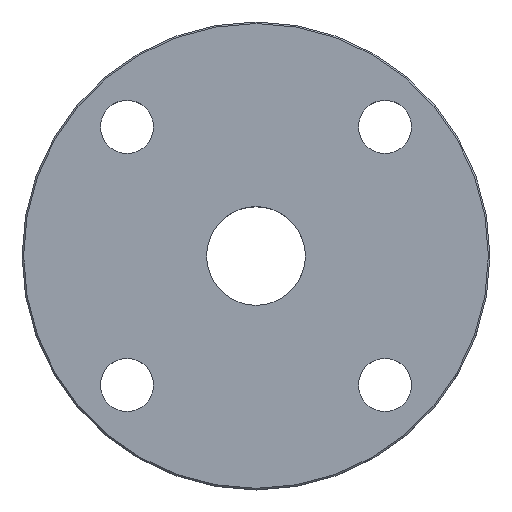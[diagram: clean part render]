
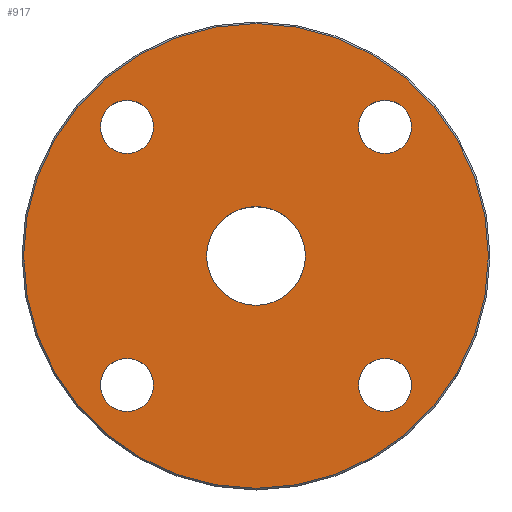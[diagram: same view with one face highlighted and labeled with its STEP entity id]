
A CAD part, top view. The second image highlights one B-rep face of the part: STEP entity #917.
In plain terms, the highlighted planar face has unit normal (0, 0, 1).
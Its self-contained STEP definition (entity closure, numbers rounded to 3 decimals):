
#25 = EDGE_LOOP ( 'NONE', ( #553, #399 ) ) ;
#35 = CARTESIAN_POINT ( 'NONE',  ( 41.366, -41.366, 306.5 ) ) ;
#45 = CARTESIAN_POINT ( 'NONE',  ( -41.366, -49.866, 306.5 ) ) ;
#66 = ORIENTED_EDGE ( 'NONE', *, *, #940, .T. ) ;
#81 = EDGE_LOOP ( 'NONE', ( #511, #686 ) ) ;
#90 = CARTESIAN_POINT ( 'NONE',  ( -41.366, -41.366, 306.5 ) ) ;
#95 = FACE_BOUND ( 'NONE', #147, .T. ) ;
#99 = DIRECTION ( 'NONE',  ( 0., -1., 0. ) ) ;
#103 = CARTESIAN_POINT ( 'NONE',  ( 32.866, -41.366, 306.5 ) ) ;
#110 = DIRECTION ( 'NONE',  ( 0., 0., -1. ) ) ;
#112 = EDGE_CURVE ( 'NONE', #243, #437, #558, .T. ) ;
#119 = DIRECTION ( 'NONE',  ( 0., 0., -1. ) ) ;
#121 = ORIENTED_EDGE ( 'NONE', *, *, #522, .F. ) ;
#125 = DIRECTION ( 'NONE',  ( -1., 0., 0. ) ) ;
#127 = VERTEX_POINT ( 'NONE', #573 ) ;
#130 = EDGE_CURVE ( 'NONE', #707, #442, #299, .T. ) ;
#131 = DIRECTION ( 'NONE',  ( 0., 0., -1. ) ) ;
#135 = AXIS2_PLACEMENT_3D ( 'NONE', #667, #291, #497 ) ;
#147 = EDGE_LOOP ( 'NONE', ( #914, #66 ) ) ;
#157 = DIRECTION ( 'NONE',  ( 0., 0., -1. ) ) ;
#171 = AXIS2_PLACEMENT_3D ( 'NONE', #330, #110, #933 ) ;
#173 = FACE_BOUND ( 'NONE', #25, .T. ) ;
#205 = AXIS2_PLACEMENT_3D ( 'NONE', #35, #131, #942 ) ;
#207 = EDGE_CURVE ( 'NONE', #820, #776, #866, .T. ) ;
#216 = DIRECTION ( 'NONE',  ( 0., 1., 0. ) ) ;
#232 = CIRCLE ( 'NONE', #975, 8.5 ) ;
#235 = CARTESIAN_POINT ( 'NONE',  ( -32.866, 41.366, 306.5 ) ) ;
#243 = VERTEX_POINT ( 'NONE', #364 ) ;
#247 = EDGE_CURVE ( 'NONE', #434, #127, #443, .T. ) ;
#259 = EDGE_LOOP ( 'NONE', ( #289, #923 ) ) ;
#271 = DIRECTION ( 'NONE',  ( 0., 0., -1. ) ) ;
#289 = ORIENTED_EDGE ( 'NONE', *, *, #455, .T. ) ;
#291 = DIRECTION ( 'NONE',  ( 0., 0., -1. ) ) ;
#295 = DIRECTION ( 'NONE',  ( 0., 1., 0. ) ) ;
#297 = CIRCLE ( 'NONE', #205, 8.5 ) ;
#299 = CIRCLE ( 'NONE', #412, 8.5 ) ;
#303 = EDGE_CURVE ( 'NONE', #127, #434, #572, .T. ) ;
#318 = DIRECTION ( 'NONE',  ( 0., 0., -1. ) ) ;
#319 = EDGE_LOOP ( 'NONE', ( #121, #369 ) ) ;
#321 = DIRECTION ( 'NONE',  ( 0., 0., -1. ) ) ;
#330 = CARTESIAN_POINT ( 'NONE',  ( -41.366, 41.366, 306.5 ) ) ;
#333 = PLANE ( 'NONE',  #675 ) ;
#334 = DIRECTION ( 'NONE',  ( 0., 0., -1. ) ) ;
#337 = CIRCLE ( 'NONE', #881, 8.5 ) ;
#350 = AXIS2_PLACEMENT_3D ( 'NONE', #90, #321, #400 ) ;
#363 = DIRECTION ( 'NONE',  ( 1., 0., 0. ) ) ;
#364 = CARTESIAN_POINT ( 'NONE',  ( -49.866, 41.366, 306.5 ) ) ;
#369 = ORIENTED_EDGE ( 'NONE', *, *, #207, .F. ) ;
#390 = CARTESIAN_POINT ( 'NONE',  ( 41.366, 41.366, 306.5 ) ) ;
#393 = AXIS2_PLACEMENT_3D ( 'NONE', #628, #334, #784 ) ;
#395 = DIRECTION ( 'NONE',  ( 0., 0., 1. ) ) ;
#399 = ORIENTED_EDGE ( 'NONE', *, *, #303, .T. ) ;
#400 = DIRECTION ( 'NONE',  ( 0., -1., 0. ) ) ;
#410 = FACE_BOUND ( 'NONE', #259, .T. ) ;
#412 = AXIS2_PLACEMENT_3D ( 'NONE', #483, #781, #99 ) ;
#434 = VERTEX_POINT ( 'NONE', #748 ) ;
#437 = VERTEX_POINT ( 'NONE', #235 ) ;
#442 = VERTEX_POINT ( 'NONE', #765 ) ;
#443 = CIRCLE ( 'NONE', #879, 15.835 ) ;
#444 = EDGE_CURVE ( 'NONE', #745, #682, #518, .T. ) ;
#455 = EDGE_CURVE ( 'NONE', #682, #745, #816, .T. ) ;
#483 = CARTESIAN_POINT ( 'NONE',  ( -41.366, -41.366, 306.5 ) ) ;
#489 = CIRCLE ( 'NONE', #393, 74.5 ) ;
#496 = CARTESIAN_POINT ( 'NONE',  ( 49.866, -41.366, 306.5 ) ) ;
#497 = DIRECTION ( 'NONE',  ( -1., 0., 0. ) ) ;
#500 = DIRECTION ( 'NONE',  ( -1., 0., 0. ) ) ;
#509 = CARTESIAN_POINT ( 'NONE',  ( 41.366, -41.366, 306.5 ) ) ;
#510 = CARTESIAN_POINT ( 'NONE',  ( 0., 0., 306.5 ) ) ;
#511 = ORIENTED_EDGE ( 'NONE', *, *, #631, .T. ) ;
#518 = CIRCLE ( 'NONE', #613, 8.5 ) ;
#519 = CIRCLE ( 'NONE', #350, 8.5 ) ;
#521 = AXIS2_PLACEMENT_3D ( 'NONE', #510, #119, #500 ) ;
#522 = EDGE_CURVE ( 'NONE', #776, #820, #489, .T. ) ;
#553 = ORIENTED_EDGE ( 'NONE', *, *, #247, .T. ) ;
#557 = VERTEX_POINT ( 'NONE', #103 ) ;
#558 = CIRCLE ( 'NONE', #171, 8.5 ) ;
#571 = CARTESIAN_POINT ( 'NONE',  ( 41.366, 32.866, 306.5 ) ) ;
#572 = CIRCLE ( 'NONE', #135, 15.835 ) ;
#573 = CARTESIAN_POINT ( 'NONE',  ( 15.835, 0., 306.5 ) ) ;
#613 = AXIS2_PLACEMENT_3D ( 'NONE', #390, #318, #216 ) ;
#628 = CARTESIAN_POINT ( 'NONE',  ( 0., 0., 306.5 ) ) ;
#631 = EDGE_CURVE ( 'NONE', #698, #557, #232, .T. ) ;
#633 = DIRECTION ( 'NONE',  ( 0., 1., 0. ) ) ;
#667 = CARTESIAN_POINT ( 'NONE',  ( 0., 0., 306.5 ) ) ;
#668 = EDGE_LOOP ( 'NONE', ( #767, #690 ) ) ;
#670 = CARTESIAN_POINT ( 'NONE',  ( 41.366, 41.366, 306.5 ) ) ;
#673 = DIRECTION ( 'NONE',  ( -1., 0., 0. ) ) ;
#675 = AXIS2_PLACEMENT_3D ( 'NONE', #694, #395, #633 ) ;
#682 = VERTEX_POINT ( 'NONE', #735 ) ;
#686 = ORIENTED_EDGE ( 'NONE', *, *, #719, .T. ) ;
#690 = ORIENTED_EDGE ( 'NONE', *, *, #806, .T. ) ;
#694 = CARTESIAN_POINT ( 'NONE',  ( 0., 0., 306.5 ) ) ;
#697 = FACE_BOUND ( 'NONE', #668, .T. ) ;
#698 = VERTEX_POINT ( 'NONE', #496 ) ;
#707 = VERTEX_POINT ( 'NONE', #45 ) ;
#719 = EDGE_CURVE ( 'NONE', #557, #698, #297, .T. ) ;
#735 = CARTESIAN_POINT ( 'NONE',  ( 41.366, 49.866, 306.5 ) ) ;
#737 = AXIS2_PLACEMENT_3D ( 'NONE', #670, #957, #295 ) ;
#743 = CARTESIAN_POINT ( 'NONE',  ( -41.366, 41.366, 306.5 ) ) ;
#745 = VERTEX_POINT ( 'NONE', #571 ) ;
#748 = CARTESIAN_POINT ( 'NONE',  ( -15.835, 0., 306.5 ) ) ;
#759 = CARTESIAN_POINT ( 'NONE',  ( -74.5, 0., 306.5 ) ) ;
#765 = CARTESIAN_POINT ( 'NONE',  ( -41.366, -32.866, 306.5 ) ) ;
#767 = ORIENTED_EDGE ( 'NONE', *, *, #112, .T. ) ;
#768 = FACE_OUTER_BOUND ( 'NONE', #319, .T. ) ;
#776 = VERTEX_POINT ( 'NONE', #759 ) ;
#781 = DIRECTION ( 'NONE',  ( 0., 0., -1. ) ) ;
#783 = FACE_BOUND ( 'NONE', #81, .T. ) ;
#784 = DIRECTION ( 'NONE',  ( -1., 0., 0. ) ) ;
#806 = EDGE_CURVE ( 'NONE', #437, #243, #337, .T. ) ;
#811 = CARTESIAN_POINT ( 'NONE',  ( 0., 0., 306.5 ) ) ;
#816 = CIRCLE ( 'NONE', #737, 8.5 ) ;
#820 = VERTEX_POINT ( 'NONE', #952 ) ;
#866 = CIRCLE ( 'NONE', #521, 74.5 ) ;
#879 = AXIS2_PLACEMENT_3D ( 'NONE', #811, #951, #125 ) ;
#881 = AXIS2_PLACEMENT_3D ( 'NONE', #743, #157, #673 ) ;
#914 = ORIENTED_EDGE ( 'NONE', *, *, #130, .T. ) ;
#917 = ADVANCED_FACE ( 'NONE', ( #783, #95, #410, #697, #173, #768 ), #333, .T. ) ;
#923 = ORIENTED_EDGE ( 'NONE', *, *, #444, .T. ) ;
#933 = DIRECTION ( 'NONE',  ( -1., 0., 0. ) ) ;
#940 = EDGE_CURVE ( 'NONE', #442, #707, #519, .T. ) ;
#942 = DIRECTION ( 'NONE',  ( 1., 0., 0. ) ) ;
#951 = DIRECTION ( 'NONE',  ( 0., 0., -1. ) ) ;
#952 = CARTESIAN_POINT ( 'NONE',  ( 74.5, 0., 306.5 ) ) ;
#957 = DIRECTION ( 'NONE',  ( 0., 0., -1. ) ) ;
#975 = AXIS2_PLACEMENT_3D ( 'NONE', #509, #271, #363 ) ;
